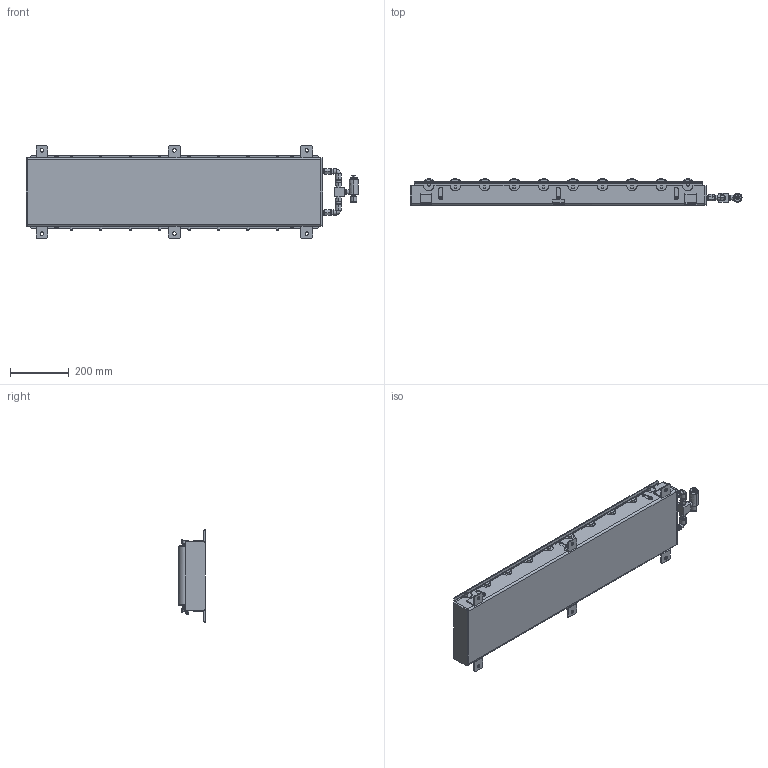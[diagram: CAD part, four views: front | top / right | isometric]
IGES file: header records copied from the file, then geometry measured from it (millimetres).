
Start section: 3D InterOp IGES (Version 21 0 2), Spatial Corp. Copyright (c) 1999-2007.
Global section: file name: ALR-PR-571008D_L.igs; native system: Spatial Corp.; preprocessor: 3D InterOp GENERIC/IGES 3.0; author: Noname; organization: Noname; date: 20130320.120211; units: millimetre
Bounding box: 1128 x 90.05 x 313 mm (x, y, z)
Surface area: 2093866.9 mm2 (no closed solid volume)
Topology: 0 solids, 0 shells, 1500 faces, 8838 edges, 8794 vertices
Faces by surface type: bspline 1500
